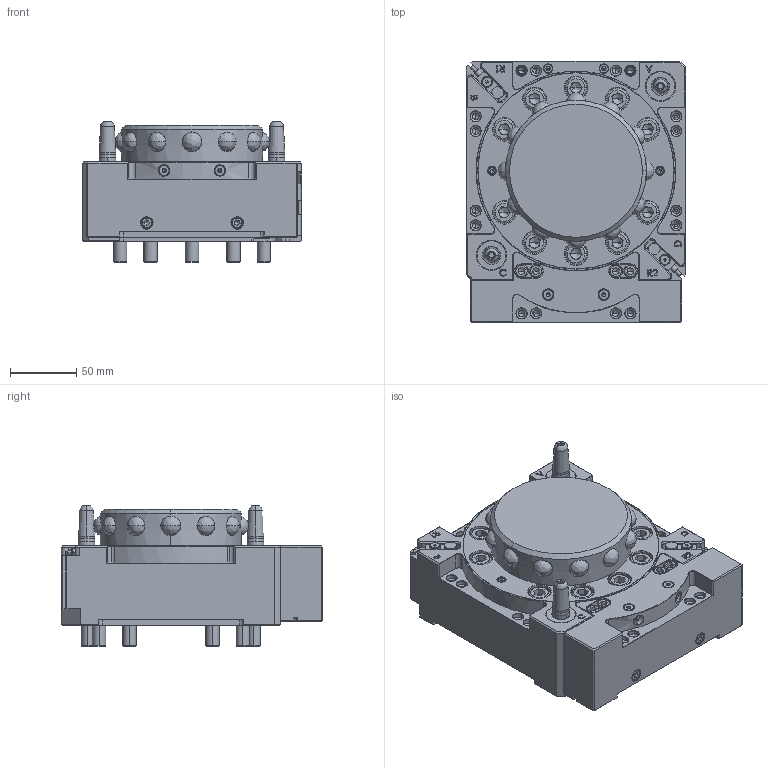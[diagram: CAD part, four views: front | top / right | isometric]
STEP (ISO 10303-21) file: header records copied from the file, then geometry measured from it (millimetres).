
FILE_DESCRIPTION (( 'STEP AP203' ), '1' );
FILE_NAME ('QCA-S350R-SP.STEP', '2024-03-20T03:08:23', ( '微软用户' ), ( '微软中国' ), 'SwSTEP 2.0', 'SolidWorks 2018', '' );
FILE_SCHEMA (( 'CONFIG_CONTROL_DESIGN' ));
Products named in the file (1): QCA-S350R-SP
Bounding box: 165 x 196.8 x 105.9 mm (x, y, z)
Volume: 1988149.7 mm3; surface area: 230670.3 mm2
Topology: 2 solids, 38 shells, 3040 faces, 7334 edges, 4374 vertices
Faces by surface type: plane 1156, cone 907, cylinder 757, bspline 216, torus 4
Entity records: 99881 total; most frequent: CARTESIAN_POINT 29855, DIRECTION 15047, ORIENTED_EDGE 14244, EDGE_CURVE 7122, AXIS2_PLACEMENT_3D 5590, VERTEX_POINT 4374, VECTOR 3867, LINE 3867
